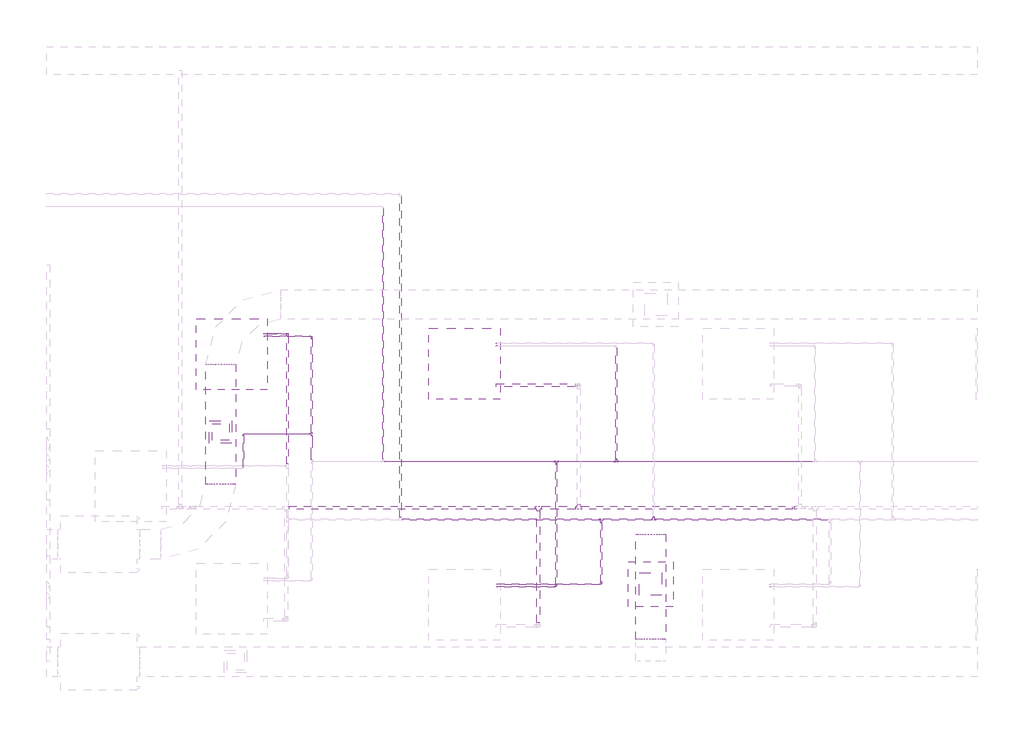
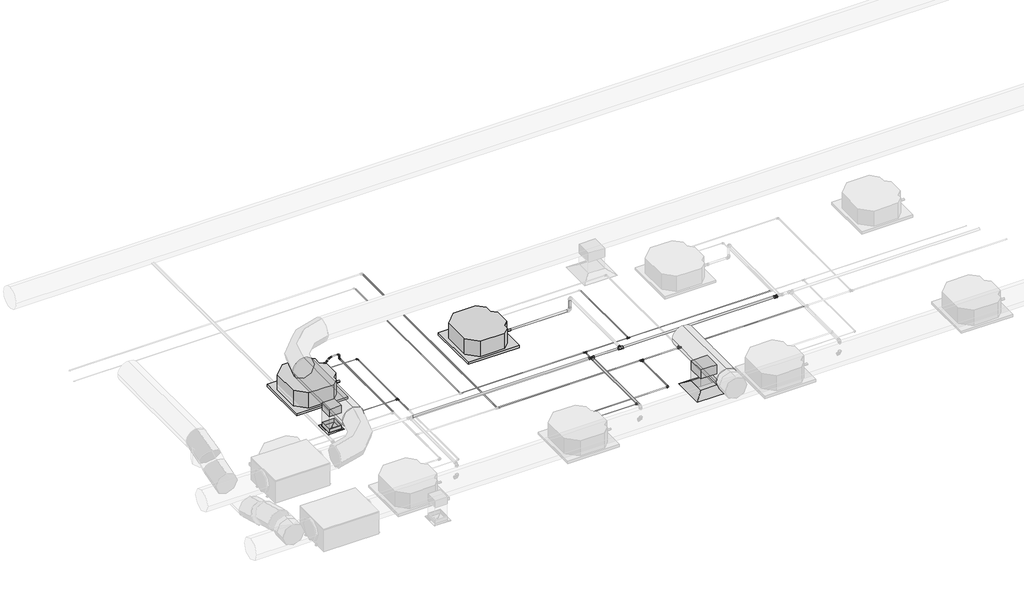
# One storey, part 7 of 22: 29 pipe fittings, 29 pipe segments, 4 duct segments, 2 air terminals, 2 duct fittings, 2 proxies.
"""IFC4 building model written with IfcOpenShell, lengths in millimetres."""

from ifc_helpers import new_model, si_unit, point, frame, frame_2d, origin, place, context, project, spatial, polyline, circle_curve, trimmed, segment, composite_curve, outline, extrude, transform, mapped, element, save
from components import air_terminal_ff221211, sdq3535_a75e83f7, mechanical_equipment_53173f38, duct_fitting_570af4ff, duct_fitting_95c1ddea, pipe_fitting_14eb6376, pipe_fitting_d7de274c, pipe_fitting_c900cfc2, pipe_fitting_16c020f5, pipe_fitting_0e110a5f, pipe_fitting_afe73776, pipe_fitting_a9265b51, pipe_fitting_09966660, pipe_fitting_59d1f3e3, pipe_fitting_648138cd, pipe_fitting_da16c1b3, pipe_fitting_af483176, pipe_fitting_5a6d96d3, pipe_fitting_12686507, pipe_fitting_6cbfda34

model = new_model("IFC4")

# Units and contexts
model_context = context("Model", 3, world=origin())
ifc_project = project(units=[si_unit("LENGTHUNIT", "METRE", prefix="MILLI")], contexts=[model_context])

# Site, building, storey
site = spatial("IfcSite", under=ifc_project)
building = spatial("IfcBuilding", under=site)
storey = spatial("IfcBuildingStorey", under=building, Name="Nível 2", Elevation=3880.0)

# Air terminals
placement = place(None, origin())
air_terminal_shape = air_terminal_ff221211(model_context)
element("IfcAirTerminal", 1, ObjectType="M_Difusor de fornecimento : 600 x 600 Face 300 x 300 Conexão", at=placement, inside=storey, context=model_context, shape_type="MappedRepresentation", body=[
    mapped(air_terminal_shape, transform((6026.054533, -7728.7092137, 6880.0), x_axis=(1.0, 0.0, 0.0), y_axis=(0.0, 1.0, 0.0), z_axis=(0.0, 0.0, 1.0))),
])
sdq3535_shape = sdq3535_a75e83f7(model_context)
element("IfcAirTerminal", 2, ObjectType="11 - Difusor Quadrado : SDQ3535", at=placement, inside=storey, context=model_context, shape_type="MappedRepresentation", body=[
    mapped(sdq3535_shape, transform((283.5312703, -5697.2088626, 6880.0), x_axis=(1.0, 0.0, 0.0), y_axis=(0.0, 1.0, 0.0), z_axis=(0.0, 0.0, 1.0))),
])

# Proxies
mechanical_equipment_shape = mechanical_equipment_53173f38(model_context)
element("IfcBuildingElementProxy", 3, Name="Midea_VRF_Indoor_4-way Cassette_MI-90(100,112,140)Q4_DHN1-D (2nd DC) : MI2-140Q4DHN1", ObjectType="Midea_VRF_Indoor_4-way Cassette_MI-90(100,112,140)Q4_DHN1-D (2nd DC) : MI2-140Q4DHN1", at=placement, inside=storey, context=model_context, shape_type="MappedRepresentation", body=[
    mapped(mechanical_equipment_shape, transform((434.0558808, -4659.0950139, 6880.0), x_axis=(1.0, 0.0, 0.0), y_axis=(0.0, 1.0, 0.0), z_axis=(0.0, 0.0, 1.0))),
])
element("IfcBuildingElementProxy", 4, Name="Midea_VRF_Indoor_4-way Cassette_MI-90(100,112,140)Q4_DHN1-D (2nd DC) : MI2-140Q4DHN1", ObjectType="Midea_VRF_Indoor_4-way Cassette_MI-90(100,112,140)Q4_DHN1-D (2nd DC) : MI2-140Q4DHN1", at=placement, inside=storey, context=model_context, shape_type="MappedRepresentation", body=[
    mapped(mechanical_equipment_shape, transform((3541.0484463, -4786.5566502, 6880.0), x_axis=(1.0, 0.0, 0.0), y_axis=(0.0, 1.0, 0.0), z_axis=(0.0, 0.0, 1.0))),
])

# Duct fittings
duct_fitting_shape = duct_fitting_570af4ff(model_context)
element("IfcDuctFitting", 5, ObjectType="M_Encaixe de duto retangular : Padrão", at=placement, inside=storey, context=model_context, shape_type="MappedRepresentation", body=[
    mapped(duct_fitting_shape, transform((283.5312703, -5697.2088626, 7301.0), x_axis=(0.0, 0.0, -1.0), y_axis=(0.0, -1.0, 0.0), z_axis=(-1.0, 0.0, 0.0))),
])
duct_fitting_2_shape = duct_fitting_95c1ddea(model_context)
element("IfcDuctFitting", 6, ObjectType="M_Encaixe de duto retangular : Padrão", at=placement, inside=storey, context=model_context, shape_type="MappedRepresentation", body=[
    mapped(duct_fitting_2_shape, transform((6026.054533, -7728.7092137, 7301.0), x_axis=(0.0, 0.0, -1.0), y_axis=(0.0, -1.0, 0.0), z_axis=(-1.0, 0.0, 0.0))),
])

# Duct segments
element("IfcDuctSegment", 7, ObjectType="Torneiras / Raio curto", at=placement, inside=storey, context=model_context, shape_type="SweptSolid", body=[
    extrude(outline(composite_curve([segment(trimmed(circle_curve(frame_2d((7501.0, 283.5312703)), 200.0), [point((7501.0, 483.5312703))], [point((7701.0, 283.5312703))], False, "CARTESIAN"), True, "CONTINUOUS"), segment(trimmed(circle_curve(frame_2d((7501.0, 283.5312703)), 200.0), [point((7701.0, 283.5312703))], [point((7501.0, 83.5312703))], False, "CARTESIAN"), True, "CONTINUOUS"), segment(trimmed(circle_curve(frame_2d((7501.0, 283.5312703)), 200.0), [point((7501.0, 83.5312703))], [point((7301.0, 283.5312703))], False, "CARTESIAN"), True, "CONTINUOUS"), segment(trimmed(circle_curve(frame_2d((7501.0, 283.5312703)), 200.0), [point((7301.0, 283.5312703))], [point((7501.0, 483.5312703))], False, "CARTESIAN"), True, "CONTINUOUS")], self_intersect=False)), frame((0.0, -6394.5831069, 0.0), z_axis=(0.0, 1.0, 0.0), x_axis=(0.0, 0.0, 1.0)), (0.0, 0.0, 1.0), 1600.0),
])
element("IfcDuctSegment", 8, ObjectType="Raios cotovelos / torneiras", at=placement, inside=storey, context=model_context, shape_type="SweptSolid", body=[
    extrude(outline(polyline([(396.0312703, -5584.7088626), (396.0312703, -5809.7088626), (171.0312703, -5809.7088626), (171.0312703, -5584.7088626), (396.0312703, -5584.7088626)])), frame((0.0, 0.0, 6885.0), z_axis=(0.0, 0.0, 1.0), x_axis=(1.0, 0.0, 0.0)), (0.0, 0.0, 1.0), 314.4),
])
element("IfcDuctSegment", 9, ObjectType="Torneiras / Raio curto", at=placement, inside=storey, context=model_context, shape_type="SweptSolid", body=[
    extrude(outline(composite_curve([segment(trimmed(circle_curve(frame_2d((7501.0, 6026.054533)), 200.0), [point((7501.0, 6226.054533))], [point((7701.0, 6026.054533))], False, "CARTESIAN"), True, "CONTINUOUS"), segment(trimmed(circle_curve(frame_2d((7501.0, 6026.054533)), 200.0), [point((7701.0, 6026.054533))], [point((7501.0, 5826.054533))], False, "CARTESIAN"), True, "CONTINUOUS"), segment(trimmed(circle_curve(frame_2d((7501.0, 6026.054533)), 200.0), [point((7501.0, 5826.054533))], [point((7301.0, 6026.054533))], False, "CARTESIAN"), True, "CONTINUOUS"), segment(trimmed(circle_curve(frame_2d((7501.0, 6026.054533)), 200.0), [point((7301.0, 6026.054533))], [point((7501.0, 6226.054533))], False, "CARTESIAN"), True, "CONTINUOUS")], self_intersect=False)), frame((0.0, -8462.2997628, 0.0), z_axis=(0.0, 1.0, 0.0), x_axis=(0.0, 0.0, 1.0)), (0.0, 0.0, 1.0), 1398.4),
])
element("IfcDuctSegment", 10, ObjectType="Raios cotovelos / torneiras", at=placement, inside=storey, context=model_context, shape_type="SweptSolid", body=[
    extrude(outline(polyline([(6176.054533, -7578.7092137), (6176.054533, -7878.7092137), (5876.054533, -7878.7092137), (5876.054533, -7578.7092137), (6176.054533, -7578.7092137)])), frame((0.0, 0.0, 6981.6), z_axis=(0.0, 0.0, 1.0), x_axis=(1.0, 0.0, 0.0)), (0.0, 0.0, 1.0), 217.8),
])

# Pipe fittings
pipe_fitting_shape = pipe_fitting_14eb6376(model_context)
element("IfcPipeFitting", 11, ObjectType="Tê de redução - PVC - CW : Padrão", at=placement, inside=storey, context=model_context, shape_type="MappedRepresentation", body=[
    mapped(pipe_fitting_shape, transform((4526.0484463, -6706.7007344, 7380.0), x_axis=(-1.0, 0.0, 0.0), y_axis=(0.0, 1.0, 0.0), z_axis=(0.0, 0.0, -1.0))),
])
element("IfcPipeFitting", 12, ObjectType="Tê de redução - PVC - CW : Padrão", at=placement, inside=storey, context=model_context, shape_type="MappedRepresentation", body=[
    mapped(pipe_fitting_shape, transform((5066.0484463, -6706.7007344, 7380.0), x_axis=(-1.0, 0.0, 0.0), y_axis=(0.0, -1.0, 0.0), z_axis=(0.0, 0.0, 1.0))),
])
pipe_fitting_2_shape = pipe_fitting_d7de274c(model_context)
element("IfcPipeFitting", 13, ObjectType="Redutor de acoplamento - PVC - CW : Padrão", at=placement, inside=storey, context=model_context, shape_type="MappedRepresentation", body=[
    mapped(pipe_fitting_2_shape, transform((7973.5184178, -6706.7007344, 7380.0), x_axis=(-1.0, 0.0, 0.0), y_axis=(0.0, -1.0, 0.0), z_axis=(0.0, 0.0, 1.0))),
])
pipe_fitting_3_shape = pipe_fitting_c900cfc2(model_context)
element("IfcPipeFitting", 14, ObjectType="Bucha de redução reta - Soldada - CU : Padrão", at=placement, inside=storey, context=model_context, shape_type="MappedRepresentation", body=[
    mapped(pipe_fitting_3_shape, transform((7620.2684179, -7728.7092137, 7132.3085101), x_axis=(1.0, 0.0, 0.0), y_axis=(0.0, 1.0, 0.0), z_axis=(0.0, 0.0, 1.0))),
])
element("IfcPipeFitting", 15, ObjectType="Bucha de redução reta - Soldada - CU : Padrão", at=placement, inside=storey, context=model_context, shape_type="MappedRepresentation", body=[
    mapped(pipe_fitting_3_shape, transform((3966.0484463, -4513.3458366, 7132.3085101), x_axis=(1.0, 0.0, 0.0), y_axis=(0.0, 1.0, 0.0), z_axis=(0.0, 0.0, 1.0))),
])
pipe_fitting_4_shape = pipe_fitting_16c020f5(model_context)
element("IfcPipeFitting", 16, ObjectType="Cotovelo - Soldado - CU : Padrão", at=placement, inside=storey, context=model_context, shape_type="MappedRepresentation", body=[
    mapped(pipe_fitting_4_shape, transform((1179.0558808, -4385.8842002, 7210.2348331), x_axis=(0.0, 0.0, 1.0), y_axis=(-1.0, 0.0, 0.0), z_axis=(0.0, -1.0, 0.0))),
])
element("IfcPipeFitting", 17, ObjectType="Cotovelo - Soldado - CU : Padrão", at=placement, inside=storey, context=model_context, shape_type="MappedRepresentation", body=[
    mapped(pipe_fitting_4_shape, transform((5366.0484463, -7728.7092137, 7132.3085101), x_axis=(1.0, 0.0, 0.0), y_axis=(0.0, 1.0, 0.0), z_axis=(0.0, 0.0, 1.0))),
])
pipe_fitting_5_shape = pipe_fitting_0e110a5f(model_context)
element("IfcPipeFitting", 18, ObjectType="Cotovelo - Soldado - CU : Padrão", at=placement, inside=storey, context=model_context, shape_type="MappedRepresentation", body=[
    mapped(pipe_fitting_5_shape, transform((1179.0558808, -4385.8842002, 7132.3009574), x_axis=(0.0, 1.0, 0.0), y_axis=(0.0, 0.0, 1.0), z_axis=(1.0, 0.0, 0.0))),
])
pipe_fitting_6_shape = pipe_fitting_afe73776(model_context)
element("IfcPipeFitting", 19, ObjectType="Bucha de redução reta - Soldada - CU : Padrão", at=placement, inside=storey, context=model_context, shape_type="MappedRepresentation", body=[
    mapped(pipe_fitting_6_shape, transform((1179.0558808, -4385.8842002, 7163.7599574), x_axis=(0.0, 0.0, 1.0), y_axis=(0.0, -1.0, 0.0), z_axis=(1.0, 0.0, 0.0))),
])
element("IfcPipeFitting", 20, ObjectType="Bucha de redução reta - Soldada - CU : Padrão", at=placement, inside=storey, context=model_context, shape_type="MappedRepresentation", body=[
    mapped(pipe_fitting_6_shape, transform((5366.0484463, -6898.1281922, 7132.3085101), x_axis=(0.0, -1.0, 0.0), y_axis=(1.0, 0.0, 0.0), z_axis=(0.0, 0.0, 1.0))),
])
element("IfcPipeFitting", 21, ObjectType="Bucha de redução reta - Soldada - CU : Padrão", at=placement, inside=storey, context=model_context, shape_type="MappedRepresentation", body=[
    mapped(pipe_fitting_6_shape, transform((6066.0484463, -6837.8071922, 7132.3085101), x_axis=(0.0, 1.0, 0.0), y_axis=(-1.0, 0.0, 0.0), z_axis=(0.0, 0.0, 1.0))),
])
pipe_fitting_7_shape = pipe_fitting_a9265b51(model_context)
element("IfcPipeFitting", 22, ObjectType="Cotovelo - Soldado - CU : Padrão", at=placement, inside=storey, context=model_context, shape_type="MappedRepresentation", body=[
    mapped(pipe_fitting_7_shape, transform((1004.0197025, -4385.8842002, 7210.2348331), x_axis=(0.7071067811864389, 0.0, 0.7071067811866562), y_axis=(0.7071067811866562, 0.0, -0.7071067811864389), z_axis=(0.0, 1.0, 0.0))),
])
pipe_fitting_8_shape = pipe_fitting_09966660(model_context)
element("IfcPipeFitting", 23, ObjectType="Tê - Soldado - CU : Padrão", at=placement, inside=storey, context=model_context, shape_type="MappedRepresentation", body=[
    mapped(pipe_fitting_8_shape, transform((5366.0484463, -6867.9676922, 7132.3085101), x_axis=(-1.0, 0.0, 0.0), y_axis=(0.0, 1.0, 0.0), z_axis=(0.0, 0.0, -1.0))),
])
element("IfcPipeFitting", 24, ObjectType="Tê - Soldado - CU : Padrão", at=placement, inside=storey, context=model_context, shape_type="MappedRepresentation", body=[
    mapped(pipe_fitting_8_shape, transform((6066.0484463, -6867.9676922, 7132.3085101), x_axis=(-1.0, 0.0, 0.0), y_axis=(0.0, -1.0, 0.0), z_axis=(0.0, 0.0, 1.0))),
])
pipe_fitting_9_shape = pipe_fitting_59d1f3e3(model_context)
element("IfcPipeFitting", 25, ObjectType="Bucha de redução reta - Soldada - CU : Padrão", at=placement, inside=storey, context=model_context, shape_type="MappedRepresentation", body=[
    mapped(pipe_fitting_9_shape, transform((859.0558808, -4419.686642, 7026.8446487), x_axis=(1.0, 0.0, 0.0), y_axis=(0.0, 1.0, 0.0), z_axis=(0.0, 0.0, 1.0))),
])
element("IfcPipeFitting", 26, ObjectType="Bucha de redução reta - Soldada - CU : Padrão", at=placement, inside=storey, context=model_context, shape_type="MappedRepresentation", body=[
    mapped(pipe_fitting_9_shape, transform((7620.2684179, -7762.5116556, 7026.8446487), x_axis=(1.0, 0.0, 0.0), y_axis=(0.0, 1.0, 0.0), z_axis=(0.0, 0.0, 1.0))),
])
element("IfcPipeFitting", 27, ObjectType="Bucha de redução reta - Soldada - CU : Padrão", at=placement, inside=storey, context=model_context, shape_type="MappedRepresentation", body=[
    mapped(pipe_fitting_9_shape, transform((3966.0484463, -4547.1482784, 7026.8446487), x_axis=(1.0, 0.0, 0.0), y_axis=(0.0, 1.0, 0.0), z_axis=(0.0, 0.0, 1.0))),
])
pipe_fitting_10_shape = pipe_fitting_648138cd(model_context)
element("IfcPipeFitting", 28, ObjectType="Cotovelo - Soldado - CU : Padrão", at=placement, inside=storey, context=model_context, shape_type="MappedRepresentation", body=[
    mapped(pipe_fitting_10_shape, transform((1499.0558808, -4419.686642, 7026.8446488), x_axis=(0.0, 1.0, 0.0), y_axis=(-1.0, 0.0, 0.0), z_axis=(0.0, 0.0, 1.0))),
])
element("IfcPipeFitting", 29, ObjectType="Cotovelo - Soldado - CU : Padrão", at=placement, inside=storey, context=model_context, shape_type="MappedRepresentation", body=[
    mapped(pipe_fitting_10_shape, transform((4766.0484463, -7762.5116556, 7026.8446487), x_axis=(1.0, 0.0, 0.0), y_axis=(0.0, 1.0, 0.0), z_axis=(0.0, 0.0, 1.0))),
])
element("IfcPipeFitting", 30, ObjectType="Cotovelo - Soldado - CU : Padrão", at=placement, inside=storey, context=model_context, shape_type="MappedRepresentation", body=[
    mapped(pipe_fitting_10_shape, transform((587.3614553, -5722.2923626, 7026.8446487), x_axis=(-1.0, 0.0, 0.0), y_axis=(0.0, -1.0, 0.0), z_axis=(0.0, 0.0, 1.0))),
])
pipe_fitting_11_shape = pipe_fitting_da16c1b3(model_context)
element("IfcPipeFitting", 31, ObjectType="Tê - Soldado - CU : Padrão", at=placement, inside=storey, context=model_context, shape_type="MappedRepresentation", body=[
    mapped(pipe_fitting_11_shape, transform((4766.0484463, -6091.0991488, 7026.8446487), x_axis=(-1.0, 0.0, 0.0), y_axis=(0.0, 1.0, 0.0), z_axis=(0.0, 0.0, -1.0))),
])
element("IfcPipeFitting", 32, ObjectType="Tê - Soldado - CU : Padrão", at=placement, inside=storey, context=model_context, shape_type="MappedRepresentation", body=[
    mapped(pipe_fitting_11_shape, transform((5566.0484463, -6091.0991488, 7026.8446487), x_axis=(-1.0, 0.0, 0.0), y_axis=(0.0, -1.0, 0.0), z_axis=(0.0, 0.0, 1.0))),
])
element("IfcPipeFitting", 33, ObjectType="Tê - Soldado - CU : Padrão", at=placement, inside=storey, context=model_context, shape_type="MappedRepresentation", body=[
    mapped(pipe_fitting_11_shape, transform((1499.0558808, -5722.2923626, 7026.8446487), x_axis=(0.0, -1.0, 0.0), y_axis=(1.0, 0.0, 0.0), z_axis=(0.0, 0.0, 1.0))),
])
pipe_fitting_12_shape = pipe_fitting_af483176(model_context)
element("IfcPipeFitting", 34, ObjectType="Bucha de redução reta - Soldada - CU : Padrão", at=placement, inside=storey, context=model_context, shape_type="MappedRepresentation", body=[
    mapped(pipe_fitting_12_shape, transform((1499.0558808, -4443.712242, 7026.8446487), x_axis=(0.0, -1.0, 0.0), y_axis=(1.0, 0.0, 0.0), z_axis=(0.0, 0.0, 1.0))),
])
pipe_fitting_13_shape = pipe_fitting_5a6d96d3(model_context)
element("IfcPipeFitting", 35, ObjectType="Bucha de redução reta - Soldada - CU : Padrão", at=placement, inside=storey, context=model_context, shape_type="MappedRepresentation", body=[
    mapped(pipe_fitting_13_shape, transform((4766.0484463, -6116.1161488, 7026.8446487), x_axis=(0.0, -1.0, 0.0), y_axis=(1.0, 0.0, 0.0), z_axis=(0.0, 0.0, 1.0))),
])
element("IfcPipeFitting", 36, ObjectType="Bucha de redução reta - Soldada - CU : Padrão", at=placement, inside=storey, context=model_context, shape_type="MappedRepresentation", body=[
    mapped(pipe_fitting_13_shape, transform((5566.0484463, -6066.0821488, 7026.8446487), x_axis=(0.0, 1.0, 0.0), y_axis=(-1.0, 0.0, 0.0), z_axis=(0.0, 0.0, 1.0))),
])
element("IfcPipeFitting", 37, ObjectType="Bucha de redução reta - Soldada - CU : Padrão", at=placement, inside=storey, context=model_context, shape_type="MappedRepresentation", body=[
    mapped(pipe_fitting_13_shape, transform((1474.0388808, -5722.2923626, 7026.8446487), x_axis=(-1.0, 0.0, 0.0), y_axis=(0.0, -1.0, 0.0), z_axis=(0.0, 0.0, 1.0))),
])
pipe_fitting_14_shape = pipe_fitting_12686507(model_context)
element("IfcPipeFitting", 38, ObjectType="Cotovelo - Soldado - CU : Padrão", at=placement, inside=storey, context=model_context, shape_type="MappedRepresentation", body=[
    mapped(pipe_fitting_14_shape, transform((926.0933794, -4385.8842002, 7132.3085101), x_axis=(1.0, 0.0, 0.0), y_axis=(0.0, 0.0, 1.0), z_axis=(0.0, -1.0, 0.0))),
])
pipe_fitting_15_shape = pipe_fitting_6cbfda34(model_context)
element("IfcPipeFitting", 39, ObjectType="Bucha de redução reta - Soldada - CU : Padrão", at=placement, inside=storey, context=model_context, shape_type="MappedRepresentation", body=[
    mapped(pipe_fitting_15_shape, transform((946.6008903, -4385.8842002, 7152.8160209), x_axis=(0.7071067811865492, 0.0, 0.7071067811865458), y_axis=(0.0, 1.0, 0.0), z_axis=(-0.7071067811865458, 0.0, 0.7071067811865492))),
])

# Pipe segments
element("IfcPipeSegment", 40, ObjectType="Tubos de cobre HVAC", at=placement, inside=storey, context=model_context, shape_type="SweptSolid", body=[
    extrude(outline(composite_curve([segment(trimmed(circle_curve(frame_2d((7132.3009574, 1179.0558808)), 9.525), [point((7132.3009574, 1188.5808808))], [point((7141.8259574, 1179.0558808))], False, "CARTESIAN"), True, "CONTINUOUS"), segment(trimmed(circle_curve(frame_2d((7132.3009574, 1179.0558808)), 9.525), [point((7141.8259574, 1179.0558808))], [point((7132.3009574, 1169.5308808))], False, "CARTESIAN"), True, "CONTINUOUS"), segment(trimmed(circle_curve(frame_2d((7132.3009574, 1179.0558808)), 9.525), [point((7132.3009574, 1169.5308808))], [point((7122.7759574, 1179.0558808))], False, "CARTESIAN"), True, "CONTINUOUS"), segment(trimmed(circle_curve(frame_2d((7132.3009574, 1179.0558808)), 9.525), [point((7122.7759574, 1179.0558808))], [point((7132.3009574, 1188.5808808))], False, "CARTESIAN"), True, "CONTINUOUS")], self_intersect=False)), frame((0.0, -6118.2946707, 0.0), z_axis=(0.0, 1.0, 0.0), x_axis=(0.0, 0.0, 1.0)), (0.0, 0.0, 1.0), 1700.9514705),
])
element("IfcPipeSegment", 41, ObjectType="Tubos de cobre HVAC", at=placement, inside=storey, context=model_context, shape_type="SweptSolid", body=[
    extrude(outline(composite_curve([segment(trimmed(circle_curve(frame_2d((-4385.8842002, 7210.2348331)), 7.935), [point((-4393.8192002, 7210.2348331))], [point((-4385.8842002, 7218.1698331))], False, "CARTESIAN"), True, "CONTINUOUS"), segment(trimmed(circle_curve(frame_2d((-4385.8842002, 7210.2348331)), 7.935), [point((-4385.8842002, 7218.1698331))], [point((-4377.9492002, 7210.2348331))], False, "CARTESIAN"), True, "CONTINUOUS"), segment(trimmed(circle_curve(frame_2d((-4385.8842002, 7210.2348331)), 7.935), [point((-4377.9492002, 7210.2348331))], [point((-4385.8842002, 7202.2998331))], False, "CARTESIAN"), True, "CONTINUOUS"), segment(trimmed(circle_curve(frame_2d((-4385.8842002, 7210.2348331)), 7.935), [point((-4385.8842002, 7202.2998331))], [point((-4393.8192002, 7210.2348331))], False, "CARTESIAN"), True, "CONTINUOUS")], self_intersect=False)), frame((1032.9983025, 0.0, 0.0), z_axis=(1.0, 0.0, 0.0), x_axis=(0.0, 1.0, 0.0)), (0.0, 0.0, 1.0), 117.0789783),
])
element("IfcPipeSegment", 42, ObjectType="Tubos de cobre HVAC", at=placement, inside=storey, context=model_context, shape_type="SweptSolid", body=[
    extrude(outline(composite_curve([segment(trimmed(circle_curve(frame_2d((1179.0558808, -4385.8842002)), 7.935), [point((1171.1208808, -4385.8842002))], [point((1179.0558808, -4377.9492002))], False, "CARTESIAN"), True, "CONTINUOUS"), segment(trimmed(circle_curve(frame_2d((1179.0558808, -4385.8842002)), 7.935), [point((1179.0558808, -4377.9492002))], [point((1186.9908808, -4385.8842002))], False, "CARTESIAN"), True, "CONTINUOUS"), segment(trimmed(circle_curve(frame_2d((1179.0558808, -4385.8842002)), 7.935), [point((1186.9908808, -4385.8842002))], [point((1179.0558808, -4393.8192002))], False, "CARTESIAN"), True, "CONTINUOUS"), segment(trimmed(circle_curve(frame_2d((1179.0558808, -4385.8842002)), 7.935), [point((1179.0558808, -4393.8192002))], [point((1171.1208808, -4385.8842002))], False, "CARTESIAN"), True, "CONTINUOUS")], self_intersect=False)), frame((0.0, 0.0, 7176.4188574), z_axis=(0.0, 0.0, 1.0), x_axis=(1.0, 0.0, 0.0)), (0.0, 0.0, 1.0), 4.8373757),
])
element("IfcPipeSegment", 43, ObjectType="Tubos de cobre HVAC", at=placement, inside=storey, context=model_context, shape_type="SweptSolid", body=[
    extrude(outline(composite_curve([segment(trimmed(circle_curve(frame_2d((-4385.8842002, 7132.3085101)), 7.95), [point((-4393.8342002, 7132.3085101))], [point((-4385.8842002, 7140.2585101))], False, "CARTESIAN"), True, "CONTINUOUS"), segment(trimmed(circle_curve(frame_2d((-4385.8842002, 7132.3085101)), 7.95), [point((-4385.8842002, 7140.2585101))], [point((-4377.9342002, 7132.3085101))], False, "CARTESIAN"), True, "CONTINUOUS"), segment(trimmed(circle_curve(frame_2d((-4385.8842002, 7132.3085101)), 7.95), [point((-4377.9342002, 7132.3085101))], [point((-4385.8842002, 7124.3585101))], False, "CARTESIAN"), True, "CONTINUOUS"), segment(trimmed(circle_curve(frame_2d((-4385.8842002, 7132.3085101)), 7.95), [point((-4385.8842002, 7124.3585101))], [point((-4393.8342002, 7132.3085101))], False, "CARTESIAN"), True, "CONTINUOUS")], self_intersect=False)), frame((859.0558808, 0.0, 0.0), z_axis=(1.0, 0.0, 0.0), x_axis=(0.0, 1.0, 0.0)), (0.0, 0.0, 1.0), 38.0354986),
])
element("IfcPipeSegment", 44, ObjectType="Tubos de cobre HVAC", at=placement, inside=storey, context=model_context, shape_type="SweptSolid", body=[
    extrude(outline(composite_curve([segment(trimmed(circle_curve(frame_2d((0.0, 7.935)), 7.935), [point((0.0, 0.0))], [point((-7.935, 7.935))], False, "CARTESIAN"), True, "CONTINUOUS"), segment(trimmed(circle_curve(frame_2d((0.0, 7.935)), 7.935), [point((-7.935, 7.935))], [point((0.0, 15.87))], False, "CARTESIAN"), True, "CONTINUOUS"), segment(trimmed(circle_curve(frame_2d((0.0, 7.935)), 7.935), [point((0.0, 15.87))], [point((7.9350001, 7.935))], False, "CARTESIAN"), True, "CONTINUOUS"), segment(trimmed(circle_curve(frame_2d((0.0, 7.935)), 7.935), [point((7.9350001, 7.935))], [point((0.0, 0.0))], False, "CARTESIAN"), True, "CONTINUOUS")], self_intersect=False)), frame((955.5520843, -4393.8192002, 7161.767215), z_axis=(0.7071067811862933, 0.0, 0.7071067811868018), x_axis=(0.7071067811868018, 0.0, -0.7071067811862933)), (0.0, 0.0, 1.0), 39.5649629),
])
element("IfcPipeSegment", 45, ObjectType="Tubos de cobre HVAC", at=placement, inside=storey, context=model_context, shape_type="SweptSolid", body=[
    extrude(outline(composite_curve([segment(trimmed(circle_curve(frame_2d((-6867.9676922, 7132.3085101)), 9.525), [point((-6877.4926922, 7132.3085101))], [point((-6867.9676922, 7141.8335101))], False, "CARTESIAN"), True, "CONTINUOUS"), segment(trimmed(circle_curve(frame_2d((-6867.9676922, 7132.3085101)), 9.525), [point((-6867.9676922, 7141.8335101))], [point((-6858.4426922, 7132.3085101))], False, "CARTESIAN"), True, "CONTINUOUS"), segment(trimmed(circle_curve(frame_2d((-6867.9676922, 7132.3085101)), 9.525), [point((-6858.4426922, 7132.3085101))], [point((-6867.9676922, 7122.7835101))], False, "CARTESIAN"), True, "CONTINUOUS"), segment(trimmed(circle_curve(frame_2d((-6867.9676922, 7132.3085101)), 9.525), [point((-6867.9676922, 7122.7835101))], [point((-6877.4926922, 7132.3085101))], False, "CARTESIAN"), True, "CONTINUOUS")], self_intersect=False)), frame((6096.2436963, 0.0, 0.0), z_axis=(1.0, 0.0, 0.0), x_axis=(0.0, 1.0, 0.0)), (0.0, 0.0, 1.0), 2293.8294715),
])
element("IfcPipeSegment", 46, ObjectType="Tubos de cobre HVAC", at=placement, inside=storey, context=model_context, shape_type="SweptSolid", body=[
    extrude(outline(composite_curve([segment(trimmed(circle_curve(frame_2d((-7728.7092137, 7132.3085101)), 7.935), [point((-7736.6442137, 7132.3085101))], [point((-7728.7092137, 7140.2435101))], False, "CARTESIAN"), True, "CONTINUOUS"), segment(trimmed(circle_curve(frame_2d((-7728.7092137, 7132.3085101)), 7.935), [point((-7728.7092137, 7140.2435101))], [point((-7720.7742137, 7132.3085101))], False, "CARTESIAN"), True, "CONTINUOUS"), segment(trimmed(circle_curve(frame_2d((-7728.7092137, 7132.3085101)), 7.935), [point((-7720.7742137, 7132.3085101))], [point((-7728.7092137, 7124.3735101))], False, "CARTESIAN"), True, "CONTINUOUS"), segment(trimmed(circle_curve(frame_2d((-7728.7092137, 7132.3085101)), 7.935), [point((-7728.7092137, 7124.3735101))], [point((-7736.6442137, 7132.3085101))], False, "CARTESIAN"), True, "CONTINUOUS")], self_intersect=False)), frame((3978.7073463, 0.0, 0.0), z_axis=(1.0, 0.0, 0.0), x_axis=(0.0, 1.0, 0.0)), (0.0, 0.0, 1.0), 1358.3625),
])
element("IfcPipeSegment", 47, ObjectType="Tubos de cobre HVAC", at=placement, inside=storey, context=model_context, shape_type="SweptSolid", body=[
    extrude(outline(composite_curve([segment(trimmed(circle_curve(frame_2d((7132.3085101, 5366.0484463)), 7.935), [point((7132.3085101, 5358.1134463))], [point((7124.3735101, 5366.0484463))], False, "CARTESIAN"), True, "CONTINUOUS"), segment(trimmed(circle_curve(frame_2d((7132.3085101, 5366.0484463)), 7.935), [point((7124.3735101, 5366.0484463))], [point((7132.3085101, 5373.9834463))], False, "CARTESIAN"), True, "CONTINUOUS"), segment(trimmed(circle_curve(frame_2d((7132.3085101, 5366.0484463)), 7.935), [point((7132.3085101, 5373.9834463))], [point((7140.2435101, 5366.0484463))], False, "CARTESIAN"), True, "CONTINUOUS"), segment(trimmed(circle_curve(frame_2d((7132.3085101, 5366.0484463)), 7.935), [point((7140.2435101, 5366.0484463))], [point((7132.3085101, 5358.1134463))], False, "CARTESIAN"), True, "CONTINUOUS")], self_intersect=False)), frame((0.0, -7699.7306137, 0.0), z_axis=(0.0, 1.0, 0.0), x_axis=(0.0, 0.0, 1.0)), (0.0, 0.0, 1.0), 788.9435215),
])
element("IfcPipeSegment", 48, ObjectType="Tubos de cobre HVAC", at=placement, inside=storey, context=model_context, shape_type="SweptSolid", body=[
    extrude(outline(composite_curve([segment(trimmed(circle_curve(frame_2d((-6867.9676922, 7132.3085101)), 9.525), [point((-6877.4926922, 7132.3085101))], [point((-6867.9676922, 7141.8335101))], False, "CARTESIAN"), True, "CONTINUOUS"), segment(trimmed(circle_curve(frame_2d((-6867.9676922, 7132.3085101)), 9.525), [point((-6867.9676922, 7141.8335101))], [point((-6858.4426922, 7132.3085101))], False, "CARTESIAN"), True, "CONTINUOUS"), segment(trimmed(circle_curve(frame_2d((-6867.9676922, 7132.3085101)), 9.525), [point((-6858.4426922, 7132.3085101))], [point((-6867.9676922, 7122.7835101))], False, "CARTESIAN"), True, "CONTINUOUS"), segment(trimmed(circle_curve(frame_2d((-6867.9676922, 7132.3085101)), 9.525), [point((-6867.9676922, 7122.7835101))], [point((-6877.4926922, 7132.3085101))], False, "CARTESIAN"), True, "CONTINUOUS")], self_intersect=False)), frame((5396.2436963, 0.0, 0.0), z_axis=(1.0, 0.0, 0.0), x_axis=(0.0, 1.0, 0.0)), (0.0, 0.0, 1.0), 639.6095),
])
element("IfcPipeSegment", 49, ObjectType="Tubos de cobre HVAC", at=placement, inside=storey, context=model_context, shape_type="SweptSolid", body=[
    extrude(outline(composite_curve([segment(trimmed(circle_curve(frame_2d((0.0, -9.525)), 9.525), [point((0.0, -19.05))], [point((-9.525, -9.525))], False, "CARTESIAN"), True, "CONTINUOUS"), segment(trimmed(circle_curve(frame_2d((0.0, -9.525)), 9.525), [point((-9.525, -9.525))], [point((0.0, 0.0))], False, "CARTESIAN"), True, "CONTINUOUS"), segment(trimmed(circle_curve(frame_2d((0.0, -9.525)), 9.525), [point((0.0, 0.0))], [point((9.525, -9.525))], False, "CARTESIAN"), True, "CONTINUOUS"), segment(trimmed(circle_curve(frame_2d((0.0, -9.525)), 9.525), [point((9.525, -9.525))], [point((0.0, -19.05))], False, "CARTESIAN"), True, "CONTINUOUS")], self_intersect=False)), frame((2675.164564, -2549.9016922, 7132.3000626), z_axis=(0.0, -0.9999999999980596, 1.9700744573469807e-06), x_axis=(0.0, 1.9700744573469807e-06, 0.9999999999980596)), (0.0, 0.0, 1.0), 4287.9055),
])
element("IfcPipeSegment", 50, ObjectType="Tubos de cobre HVAC", at=placement, inside=storey, context=model_context, shape_type="SweptSolid", body=[
    extrude(outline(composite_curve([segment(trimmed(circle_curve(frame_2d((-6867.9676922, 7132.3085101)), 9.525), [point((-6858.4426922, 7132.3085101))], [point((-6867.9676922, 7122.7835101))], False, "CARTESIAN"), True, "CONTINUOUS"), segment(trimmed(circle_curve(frame_2d((-6867.9676922, 7132.3085101)), 9.525), [point((-6867.9676922, 7122.7835101))], [point((-6877.4926922, 7132.3085101))], False, "CARTESIAN"), True, "CONTINUOUS"), segment(trimmed(circle_curve(frame_2d((-6867.9676922, 7132.3085101)), 9.525), [point((-6877.4926922, 7132.3085101))], [point((-6867.9676922, 7141.8335101))], False, "CARTESIAN"), True, "CONTINUOUS"), segment(trimmed(circle_curve(frame_2d((-6867.9676922, 7132.3085101)), 9.525), [point((-6867.9676922, 7141.8335101))], [point((-6858.4426922, 7132.3085101))], False, "CARTESIAN"), True, "CONTINUOUS")], self_intersect=False)), frame((2714.884814, 0.0, 0.0), z_axis=(1.0, 0.0, 0.0), x_axis=(0.0, 1.0, 0.0)), (0.0, 0.0, 1.0), 2620.9683824),
])
element("IfcPipeSegment", 51, ObjectType="Tubos de cobre HVAC", at=placement, inside=storey, context=model_context, shape_type="SweptSolid", body=[
    extrude(outline(composite_curve([segment(trimmed(circle_curve(frame_2d((-4419.686642, 7026.8446487)), 4.76), [point((-4424.446642, 7026.8446487))], [point((-4419.686642, 7031.6046487))], False, "CARTESIAN"), True, "CONTINUOUS"), segment(trimmed(circle_curve(frame_2d((-4419.686642, 7026.8446487)), 4.76), [point((-4419.686642, 7031.6046487))], [point((-4414.926642, 7026.8446487))], False, "CARTESIAN"), True, "CONTINUOUS"), segment(trimmed(circle_curve(frame_2d((-4419.686642, 7026.8446487)), 4.76), [point((-4414.926642, 7026.8446487))], [point((-4419.686642, 7022.0846487))], False, "CARTESIAN"), True, "CONTINUOUS"), segment(trimmed(circle_curve(frame_2d((-4419.686642, 7026.8446487)), 4.76), [point((-4419.686642, 7022.0846487))], [point((-4424.446642, 7026.8446487))], False, "CARTESIAN"), True, "CONTINUOUS")], self_intersect=False)), frame((868.7302808, 0.0, 0.0), z_axis=(1.0, 0.0, 0.0), x_axis=(0.0, 1.0, 0.0)), (0.0, 0.0, 1.0), 606.3),
])
element("IfcPipeSegment", 52, ObjectType="Tubos de cobre HVAC", at=placement, inside=storey, context=model_context, shape_type="SweptSolid", body=[
    extrude(outline(composite_curve([segment(trimmed(circle_curve(frame_2d((7026.8446487, 1499.0558808)), 6.35), [point((7026.8446487, 1505.4058808))], [point((7033.1946487, 1499.0558808))], False, "CARTESIAN"), True, "CONTINUOUS"), segment(trimmed(circle_curve(frame_2d((7026.8446487, 1499.0558808)), 6.35), [point((7033.1946487, 1499.0558808))], [point((7026.8446487, 1492.7058808))], False, "CARTESIAN"), True, "CONTINUOUS"), segment(trimmed(circle_curve(frame_2d((7026.8446487, 1499.0558808)), 6.35), [point((7026.8446487, 1492.7058808))], [point((7020.4946487, 1499.0558808))], False, "CARTESIAN"), True, "CONTINUOUS"), segment(trimmed(circle_curve(frame_2d((7026.8446487, 1499.0558808)), 6.35), [point((7020.4946487, 1499.0558808))], [point((7026.8446487, 1505.4058808))], False, "CARTESIAN"), True, "CONTINUOUS")], self_intersect=False)), frame((0.0, -5697.2088626, 0.0), z_axis=(0.0, 1.0, 0.0), x_axis=(0.0, 0.0, 1.0)), (0.0, 0.0, 1.0), 1243.8222205),
])
element("IfcPipeSegment", 53, ObjectType="Tubos de cobre HVAC", at=placement, inside=storey, context=model_context, shape_type="SweptSolid", body=[
    extrude(outline(composite_curve([segment(trimmed(circle_curve(frame_2d((-6091.0991488, 7026.8446487)), 6.35), [point((-6097.4491488, 7026.8446487))], [point((-6091.0991488, 7033.1946487))], False, "CARTESIAN"), True, "CONTINUOUS"), segment(trimmed(circle_curve(frame_2d((-6091.0991488, 7026.8446487)), 6.35), [point((-6091.0991488, 7033.1946487))], [point((-6084.7491488, 7026.8446487))], False, "CARTESIAN"), True, "CONTINUOUS"), segment(trimmed(circle_curve(frame_2d((-6091.0991488, 7026.8446487)), 6.35), [point((-6084.7491488, 7026.8446487))], [point((-6091.0991488, 7020.4946487))], False, "CARTESIAN"), True, "CONTINUOUS"), segment(trimmed(circle_curve(frame_2d((-6091.0991488, 7026.8446487)), 6.35), [point((-6091.0991488, 7020.4946487))], [point((-6097.4491488, 7026.8446487))], False, "CARTESIAN"), True, "CONTINUOUS")], self_intersect=False)), frame((5591.1319463, 0.0, 0.0), z_axis=(1.0, 0.0, 0.0), x_axis=(0.0, 1.0, 0.0)), (0.0, 0.0, 1.0), 2604.0529715),
])
element("IfcPipeSegment", 54, ObjectType="Tubos de cobre HVAC", at=placement, inside=storey, context=model_context, shape_type="SweptSolid", body=[
    extrude(outline(composite_curve([segment(trimmed(circle_curve(frame_2d((-7762.5116556, 7026.8446487)), 4.76), [point((-7767.2716556, 7026.8446487))], [point((-7762.5116556, 7031.6046487))], False, "CARTESIAN"), True, "CONTINUOUS"), segment(trimmed(circle_curve(frame_2d((-7762.5116556, 7026.8446487)), 4.76), [point((-7762.5116556, 7031.6046487))], [point((-7757.7516556, 7026.8446487))], False, "CARTESIAN"), True, "CONTINUOUS"), segment(trimmed(circle_curve(frame_2d((-7762.5116556, 7026.8446487)), 4.76), [point((-7757.7516556, 7026.8446487))], [point((-7762.5116556, 7022.0846487))], False, "CARTESIAN"), True, "CONTINUOUS"), segment(trimmed(circle_curve(frame_2d((-7762.5116556, 7026.8446487)), 4.76), [point((-7762.5116556, 7022.0846487))], [point((-7767.2716556, 7026.8446487))], False, "CARTESIAN"), True, "CONTINUOUS")], self_intersect=False)), frame((3975.7228463, 0.0, 0.0), z_axis=(1.0, 0.0, 0.0), x_axis=(0.0, 1.0, 0.0)), (0.0, 0.0, 1.0), 766.3),
])
element("IfcPipeSegment", 55, ObjectType="Tubos de cobre HVAC", at=placement, inside=storey, context=model_context, shape_type="SweptSolid", body=[
    extrude(outline(composite_curve([segment(trimmed(circle_curve(frame_2d((7026.8446487, 4766.0484463)), 4.76), [point((7026.8446487, 4761.2884463))], [point((7022.0846487, 4766.0484463))], False, "CARTESIAN"), True, "CONTINUOUS"), segment(trimmed(circle_curve(frame_2d((7026.8446487, 4766.0484463)), 4.76), [point((7022.0846487, 4766.0484463))], [point((7026.8446487, 4770.8084463))], False, "CARTESIAN"), True, "CONTINUOUS"), segment(trimmed(circle_curve(frame_2d((7026.8446487, 4766.0484463)), 4.76), [point((7026.8446487, 4770.8084463))], [point((7031.6046487, 4766.0484463))], False, "CARTESIAN"), True, "CONTINUOUS"), segment(trimmed(circle_curve(frame_2d((7026.8446487, 4766.0484463)), 4.76), [point((7031.6046487, 4766.0484463))], [point((7026.8446487, 4761.2884463))], False, "CARTESIAN"), True, "CONTINUOUS")], self_intersect=False)), frame((0.0, -7738.4860556, 0.0), z_axis=(0.0, 1.0, 0.0), x_axis=(0.0, 0.0, 1.0)), (0.0, 0.0, 1.0), 1612.6955068),
])
element("IfcPipeSegment", 56, ObjectType="Tubos de cobre HVAC", at=placement, inside=storey, context=model_context, shape_type="SweptSolid", body=[
    extrude(outline(composite_curve([segment(trimmed(circle_curve(frame_2d((-6091.0991488, 7026.8446487)), 6.35), [point((-6097.4491488, 7026.8446487))], [point((-6091.0991488, 7033.1946487))], False, "CARTESIAN"), True, "CONTINUOUS"), segment(trimmed(circle_curve(frame_2d((-6091.0991488, 7026.8446487)), 6.35), [point((-6091.0991488, 7033.1946487))], [point((-6084.7491488, 7026.8446487))], False, "CARTESIAN"), True, "CONTINUOUS"), segment(trimmed(circle_curve(frame_2d((-6091.0991488, 7026.8446487)), 6.35), [point((-6084.7491488, 7026.8446487))], [point((-6091.0991488, 7020.4946487))], False, "CARTESIAN"), True, "CONTINUOUS"), segment(trimmed(circle_curve(frame_2d((-6091.0991488, 7026.8446487)), 6.35), [point((-6091.0991488, 7020.4946487))], [point((-6097.4491488, 7026.8446487))], False, "CARTESIAN"), True, "CONTINUOUS")], self_intersect=False)), frame((2476.5148698, 0.0, 0.0), z_axis=(1.0, 0.0, 0.0), x_axis=(0.0, 1.0, 0.0)), (0.0, 0.0, 1.0), 2264.4500765),
])
element("IfcPipeSegment", 57, ObjectType="Tubos de cobre HVAC", at=placement, inside=storey, context=model_context, shape_type="SweptSolid", body=[
    extrude(outline(composite_curve([segment(trimmed(circle_curve(frame_2d((7026.8446487, 5566.0484463)), 4.76), [point((7026.8446487, 5570.8084463))], [point((7031.6046487, 5566.0484463))], False, "CARTESIAN"), True, "CONTINUOUS"), segment(trimmed(circle_curve(frame_2d((7026.8446487, 5566.0484463)), 4.76), [point((7031.6046487, 5566.0484463))], [point((7026.8446487, 5561.2884463))], False, "CARTESIAN"), True, "CONTINUOUS"), segment(trimmed(circle_curve(frame_2d((7026.8446487, 5566.0484463)), 4.76), [point((7026.8446487, 5561.2884463))], [point((7022.0846487, 5566.0484463))], False, "CARTESIAN"), True, "CONTINUOUS"), segment(trimmed(circle_curve(frame_2d((7026.8446487, 5566.0484463)), 4.76), [point((7022.0846487, 5566.0484463))], [point((7026.8446487, 5570.8084463))], False, "CARTESIAN"), True, "CONTINUOUS")], self_intersect=False)), frame((0.0, -6056.4077488, 0.0), z_axis=(0.0, 1.0, 0.0), x_axis=(0.0, 0.0, 1.0)), (0.0, 0.0, 1.0), 1485.2338704),
])
element("IfcPipeSegment", 58, ObjectType="Tubos de cobre HVAC", at=placement, inside=storey, context=model_context, shape_type="SweptSolid", body=[
    extrude(outline(composite_curve([segment(trimmed(circle_curve(frame_2d((-6091.0991488, 7026.8446487)), 6.35), [point((-6097.4491488, 7026.8446487))], [point((-6091.0991488, 7033.1946487))], False, "CARTESIAN"), True, "CONTINUOUS"), segment(trimmed(circle_curve(frame_2d((-6091.0991488, 7026.8446487)), 6.35), [point((-6091.0991488, 7033.1946487))], [point((-6084.7491488, 7026.8446487))], False, "CARTESIAN"), True, "CONTINUOUS"), segment(trimmed(circle_curve(frame_2d((-6091.0991488, 7026.8446487)), 6.35), [point((-6084.7491488, 7026.8446487))], [point((-6091.0991488, 7020.4946487))], False, "CARTESIAN"), True, "CONTINUOUS"), segment(trimmed(circle_curve(frame_2d((-6091.0991488, 7026.8446487)), 6.35), [point((-6091.0991488, 7020.4946487))], [point((-6097.4491488, 7026.8446487))], False, "CARTESIAN"), True, "CONTINUOUS")], self_intersect=False)), frame((4791.1319463, 0.0, 0.0), z_axis=(1.0, 0.0, 0.0), x_axis=(0.0, 1.0, 0.0)), (0.0, 0.0, 1.0), 749.833),
])
element("IfcPipeSegment", 59, ObjectType="Tubos de cobre HVAC", at=placement, inside=storey, context=model_context, shape_type="SweptSolid", body=[
    extrude(outline(composite_curve([segment(trimmed(circle_curve(frame_2d((7026.8446487, 2451.4313698)), 4.76), [point((7026.8446487, 2456.1913698))], [point((7031.6046487, 2451.4313698))], False, "CARTESIAN"), True, "CONTINUOUS"), segment(trimmed(circle_curve(frame_2d((7026.8446487, 2451.4313698)), 4.76), [point((7031.6046487, 2451.4313698))], [point((7026.8446487, 2446.6713698))], False, "CARTESIAN"), True, "CONTINUOUS"), segment(trimmed(circle_curve(frame_2d((7026.8446487, 2451.4313698)), 4.76), [point((7026.8446487, 2446.6713698))], [point((7022.0846487, 2451.4313698))], False, "CARTESIAN"), True, "CONTINUOUS"), segment(trimmed(circle_curve(frame_2d((7026.8446487, 2451.4313698)), 4.76), [point((7022.0846487, 2451.4313698))], [point((7026.8446487, 2456.1913698))], False, "CARTESIAN"), True, "CONTINUOUS")], self_intersect=False)), frame((0.0, -6056.4077488, 0.0), z_axis=(0.0, 1.0, 0.0), x_axis=(0.0, 0.0, 1.0)), (0.0, 0.0, 1.0), 3347.633),
])
element("IfcPipeSegment", 60, ObjectType="Tubos de cobre HVAC", at=placement, inside=storey, context=model_context, shape_type="SweptSolid", body=[
    extrude(outline(composite_curve([segment(trimmed(circle_curve(frame_2d((0.0, 4.76)), 4.76), [point((0.0, 9.52))], [point((4.76, 4.76))], False, "CARTESIAN"), True, "CONTINUOUS"), segment(trimmed(circle_curve(frame_2d((0.0, 4.76)), 4.76), [point((4.76, 4.76))], [point((0.0, 0.0))], False, "CARTESIAN"), True, "CONTINUOUS"), segment(trimmed(circle_curve(frame_2d((0.0, 4.76)), 4.76), [point((0.0, 0.0))], [point((-4.76, 4.76))], False, "CARTESIAN"), True, "CONTINUOUS"), segment(trimmed(circle_curve(frame_2d((0.0, 4.76)), 4.76), [point((-4.76, 4.76))], [point((0.0, 9.52))], False, "CARTESIAN"), True, "CONTINUOUS")], self_intersect=False)), frame((582.6014553, -6158.2667626, 7026.8370961), z_axis=(0.0, 0.9999999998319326, 1.8333981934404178e-05), x_axis=(0.0, -1.8333981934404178e-05, 0.9999999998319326)), (0.0, 0.0, 1.0), 411.9488001),
])
element("IfcPipeSegment", 61, ObjectType="Tubos de cobre HVAC", at=placement, inside=storey, context=model_context, shape_type="SweptSolid", body=[
    extrude(outline(composite_curve([segment(trimmed(circle_curve(frame_2d((-5722.2923626, 7026.8446487)), 4.76), [point((-5717.5323626, 7026.8446487))], [point((-5722.2923626, 7022.0846487))], False, "CARTESIAN"), True, "CONTINUOUS"), segment(trimmed(circle_curve(frame_2d((-5722.2923626, 7026.8446487)), 4.76), [point((-5722.2923626, 7022.0846487))], [point((-5727.0523626, 7026.8446487))], False, "CARTESIAN"), True, "CONTINUOUS"), segment(trimmed(circle_curve(frame_2d((-5722.2923626, 7026.8446487)), 4.76), [point((-5727.0523626, 7026.8446487))], [point((-5722.2923626, 7031.6046487))], False, "CARTESIAN"), True, "CONTINUOUS"), segment(trimmed(circle_curve(frame_2d((-5722.2923626, 7026.8446487)), 4.76), [point((-5722.2923626, 7031.6046487))], [point((-5717.5323626, 7026.8446487))], False, "CARTESIAN"), True, "CONTINUOUS")], self_intersect=False)), frame((611.3870553, 0.0, 0.0), z_axis=(1.0, 0.0, 0.0), x_axis=(0.0, 1.0, 0.0)), (0.0, 0.0, 1.0), 852.9774255),
])
element("IfcPipeSegment", 62, ObjectType="Tubos de cobre HVAC", at=placement, inside=storey, context=model_context, shape_type="SweptSolid", body=[
    extrude(outline(composite_curve([segment(trimmed(circle_curve(frame_2d((7026.8446487, 1499.0558808)), 6.35), [point((7026.8446487, 1505.4058808))], [point((7033.1946487, 1499.0558808))], False, "CARTESIAN"), True, "CONTINUOUS"), segment(trimmed(circle_curve(frame_2d((7026.8446487, 1499.0558808)), 6.35), [point((7033.1946487, 1499.0558808))], [point((7026.8446487, 1492.7058808))], False, "CARTESIAN"), True, "CONTINUOUS"), segment(trimmed(circle_curve(frame_2d((7026.8446487, 1499.0558808)), 6.35), [point((7026.8446487, 1492.7058808))], [point((7020.4946487, 1499.0558808))], False, "CARTESIAN"), True, "CONTINUOUS"), segment(trimmed(circle_curve(frame_2d((7026.8446487, 1499.0558808)), 6.35), [point((7020.4946487, 1499.0558808))], [point((7026.8446487, 1505.4058808))], False, "CARTESIAN"), True, "CONTINUOUS")], self_intersect=False)), frame((0.0, -6066.0156488, 0.0), z_axis=(0.0, 1.0, 0.0), x_axis=(0.0, 0.0, 1.0)), (0.0, 0.0, 1.0), 318.6397862),
])
element("IfcPipeSegment", 63, ObjectType="Plástico", at=placement, inside=storey, context=model_context, shape_type="SweptSolid", body=[
    extrude(outline(composite_curve([segment(trimmed(circle_curve(frame_2d((7380.0, 4526.0484463)), 20.0), [point((7380.0, 4506.0484463))], [point((7360.0, 4526.0484463))], False, "CARTESIAN"), True, "CONTINUOUS"), segment(trimmed(circle_curve(frame_2d((7380.0, 4526.0484463)), 20.0), [point((7360.0, 4526.0484463))], [point((7380.0, 4546.0484463))], False, "CARTESIAN"), True, "CONTINUOUS"), segment(trimmed(circle_curve(frame_2d((7380.0, 4526.0484463)), 20.0), [point((7380.0, 4546.0484463))], [point((7400.0, 4526.0484463))], False, "CARTESIAN"), True, "CONTINUOUS"), segment(trimmed(circle_curve(frame_2d((7380.0, 4526.0484463)), 20.0), [point((7400.0, 4526.0484463))], [point((7380.0, 4506.0484463))], False, "CARTESIAN"), True, "CONTINUOUS")], self_intersect=False)), frame((0.0, -8241.9200274, 0.0), z_axis=(0.0, 1.0, 0.0), x_axis=(0.0, 0.0, 1.0)), (0.0, 0.0, 1.0), 1491.219293),
])
element("IfcPipeSegment", 64, ObjectType="Plástico", at=placement, inside=storey, context=model_context, shape_type="SweptSolid", body=[
    extrude(outline(composite_curve([segment(trimmed(circle_curve(frame_2d((-6706.7007344, 7380.0)), 20.0), [point((-6726.7007344, 7380.0))], [point((-6706.7007344, 7400.0))], False, "CARTESIAN"), True, "CONTINUOUS"), segment(trimmed(circle_curve(frame_2d((-6706.7007344, 7380.0)), 20.0), [point((-6706.7007344, 7400.0))], [point((-6686.7007344, 7380.0))], False, "CARTESIAN"), True, "CONTINUOUS"), segment(trimmed(circle_curve(frame_2d((-6706.7007344, 7380.0)), 20.0), [point((-6686.7007344, 7380.0))], [point((-6706.7007344, 7360.0))], False, "CARTESIAN"), True, "CONTINUOUS"), segment(trimmed(circle_curve(frame_2d((-6706.7007344, 7380.0)), 20.0), [point((-6706.7007344, 7360.0))], [point((-6726.7007344, 7380.0))], False, "CARTESIAN"), True, "CONTINUOUS")], self_intersect=False)), frame((1202.3058807, 0.0, 0.0), z_axis=(1.0, 0.0, 0.0), x_axis=(0.0, 1.0, 0.0)), (0.0, 0.0, 1.0), 3280.4925656),
])
element("IfcPipeSegment", 65, ObjectType="Plástico", at=placement, inside=storey, context=model_context, shape_type="SweptSolid", body=[
    extrude(outline(composite_curve([segment(trimmed(circle_curve(frame_2d((0.0, -20.0)), 20.0), [point((-20.0, -20.0))], [point((0.0, 0.0))], False, "CARTESIAN"), True, "CONTINUOUS"), segment(trimmed(circle_curve(frame_2d((0.0, -20.0)), 20.0), [point((0.0, 0.0))], [point((20.0, -20.0))], False, "CARTESIAN"), True, "CONTINUOUS"), segment(trimmed(circle_curve(frame_2d((0.0, -20.0)), 20.0), [point((20.0, -20.0))], [point((0.0, -40.0))], False, "CARTESIAN"), True, "CONTINUOUS"), segment(trimmed(circle_curve(frame_2d((0.0, -20.0)), 20.0), [point((0.0, -40.0))], [point((-20.0, -20.0))], False, "CARTESIAN"), True, "CONTINUOUS")], self_intersect=False)), frame((5021.0481136, -5071.5566502, 7112.3003481), z_axis=(-0.9999999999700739, 0.0, 7.736412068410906e-06), x_axis=(0.0, 1.0, 0.0)), (0.0, 0.0, 1.0), 1054.9998221),
])
element("IfcPipeSegment", 66, ObjectType="Plástico", at=placement, inside=storey, context=model_context, shape_type="SweptSolid", body=[
    extrude(outline(composite_curve([segment(trimmed(circle_curve(frame_2d((5066.0484463, -5071.5566502)), 20.0), [point((5086.0484463, -5071.5566502))], [point((5066.0484463, -5091.5566502))], False, "CARTESIAN"), True, "CONTINUOUS"), segment(trimmed(circle_curve(frame_2d((5066.0484463, -5071.5566502)), 20.0), [point((5066.0484463, -5091.5566502))], [point((5046.0484463, -5071.5566502))], False, "CARTESIAN"), True, "CONTINUOUS"), segment(trimmed(circle_curve(frame_2d((5066.0484463, -5071.5566502)), 20.0), [point((5046.0484463, -5071.5566502))], [point((5066.0484463, -5051.5566502))], False, "CARTESIAN"), True, "CONTINUOUS"), segment(trimmed(circle_curve(frame_2d((5066.0484463, -5071.5566502)), 20.0), [point((5066.0484463, -5051.5566502))], [point((5086.0484463, -5071.5566502))], False, "CARTESIAN"), True, "CONTINUOUS")], self_intersect=False)), frame((0.0, 0.0, 7177.3001779), z_axis=(0.0, 0.0, 1.0), x_axis=(1.0, 0.0, 0.0)), (0.0, 0.0, 1.0), 157.6998221),
])
element("IfcPipeSegment", 67, ObjectType="Plástico", at=placement, inside=storey, context=model_context, shape_type="SweptSolid", body=[
    extrude(outline(composite_curve([segment(trimmed(circle_curve(frame_2d((-6706.7007344, 7380.0)), 20.0), [point((-6726.7007344, 7380.0))], [point((-6706.7007344, 7400.0))], False, "CARTESIAN"), True, "CONTINUOUS"), segment(trimmed(circle_curve(frame_2d((-6706.7007344, 7380.0)), 20.0), [point((-6706.7007344, 7400.0))], [point((-6686.7007344, 7380.0))], False, "CARTESIAN"), True, "CONTINUOUS"), segment(trimmed(circle_curve(frame_2d((-6706.7007344, 7380.0)), 20.0), [point((-6686.7007344, 7380.0))], [point((-6706.7007344, 7360.0))], False, "CARTESIAN"), True, "CONTINUOUS"), segment(trimmed(circle_curve(frame_2d((-6706.7007344, 7380.0)), 20.0), [point((-6706.7007344, 7360.0))], [point((-6726.7007344, 7380.0))], False, "CARTESIAN"), True, "CONTINUOUS")], self_intersect=False)), frame((4569.2984463, 0.0, 0.0), z_axis=(1.0, 0.0, 0.0), x_axis=(0.0, 1.0, 0.0)), (0.0, 0.0, 1.0), 453.5),
])
element("IfcPipeSegment", 68, ObjectType="Plástico", at=placement, inside=storey, context=model_context, shape_type="SweptSolid", body=[
    extrude(outline(composite_curve([segment(trimmed(circle_curve(frame_2d((-6706.7007344, 7380.0)), 20.0), [point((-6726.7007344, 7380.0))], [point((-6706.7007344, 7400.0))], False, "CARTESIAN"), True, "CONTINUOUS"), segment(trimmed(circle_curve(frame_2d((-6706.7007344, 7380.0)), 20.0), [point((-6706.7007344, 7400.0))], [point((-6686.7007344, 7380.0))], False, "CARTESIAN"), True, "CONTINUOUS"), segment(trimmed(circle_curve(frame_2d((-6706.7007344, 7380.0)), 20.0), [point((-6686.7007344, 7380.0))], [point((-6706.7007344, 7360.0))], False, "CARTESIAN"), True, "CONTINUOUS"), segment(trimmed(circle_curve(frame_2d((-6706.7007344, 7380.0)), 20.0), [point((-6706.7007344, 7360.0))], [point((-6726.7007344, 7380.0))], False, "CARTESIAN"), True, "CONTINUOUS")], self_intersect=False)), frame((5109.2984463, 0.0, 0.0), z_axis=(1.0, 0.0, 0.0), x_axis=(0.0, 1.0, 0.0)), (0.0, 0.0, 1.0), 2809.6539715),
])

save(model, "model.ifc")
